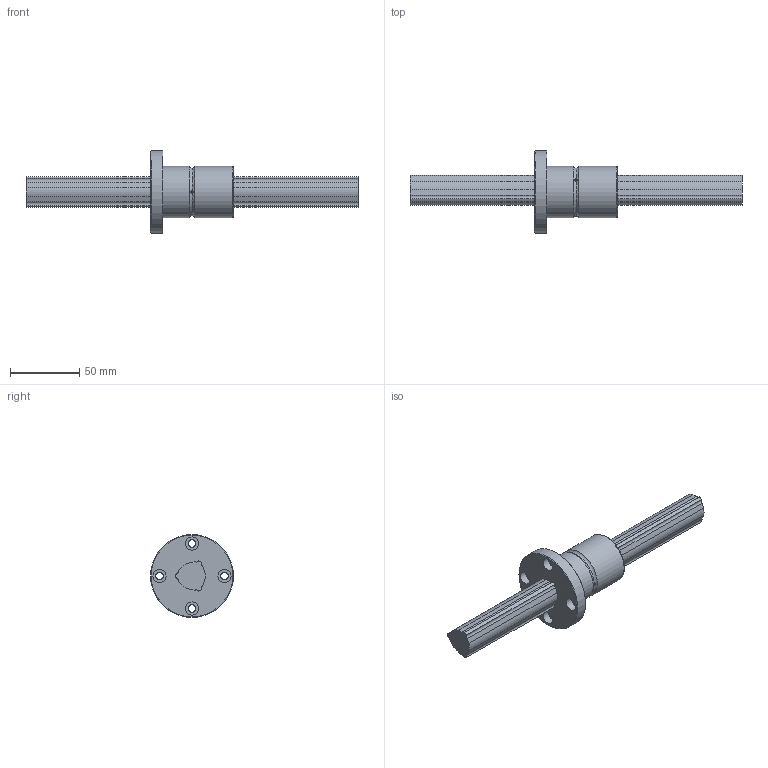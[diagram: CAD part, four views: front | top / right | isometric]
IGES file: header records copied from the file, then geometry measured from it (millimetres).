
Start section: Data from Parasolid IGES Translator 26.0.171, Copyright(c) 2006 Siemens PLM Software. All Rights Reserved.
Global section: file name: LBF25+240L(240900).igs; native system: By Siemens PLM Incorporated; preprocessor: XPlus GENERIC/IGES 26.0.171; author: Noname; organization: Noname; date: 20240523.120450; units: millimetre
Bounding box: 240 x 60 x 60 mm (x, y, z)
Surface area: 35422.2 mm2 (no closed solid volume)
Topology: 0 solids, 0 shells, 71 faces, 356 edges, 336 vertices
Faces by surface type: revolution 47, extrusion 24
